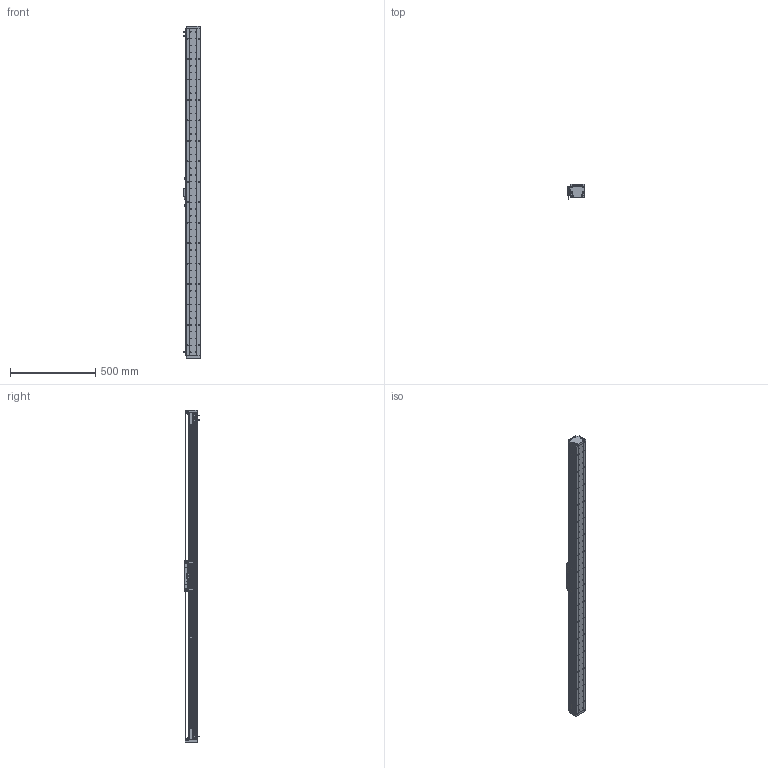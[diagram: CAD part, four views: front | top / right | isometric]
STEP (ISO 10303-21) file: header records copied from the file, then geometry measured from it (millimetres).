
FILE_DESCRIPTION (( 'STEP AP203' ), '1' );
FILE_NAME ('DA-A82-B2-T1700-C010-0.2 眻盄萇儂.STEP', '2025-08-13T03:11:57', ( '' ), ( '' ), 'SwSTEP 2.0', 'SolidWorks 2019', '' );
FILE_SCHEMA (( 'CONFIG_CONTROL_DESIGN' ));
Length unit declared in the file: millimetre
Products named in the file (23): 复件 复件 17517-0000-003-00 钢带拉块^DA-A82-B2-T-C010-0.2; DA-A60-GYP-DMT-00 光电感应片^DA-A82-B2-T-C010-0.2(默认); 复件 复件 DA82-XJ-00 缓冲橡胶^DA-A82-B2-T-C010-0.2; 葩璃 DMT-010 1米m 0.2M^DA-A82-B2-T-C010-0.2; 葩璃 PM-T45^DA-A82-B2-T-C010-0.2; 葩璃 XD-U-02  棠掑喜^DA-A82-B2-T-C010-0.2; IU-AU82-L-00 菁釱(L1920); DA-A82-B2-T1700-C010-0.2 眻盄萇儂; AU82-HT-M-00 賑雄怢啣; 葩璃 鞠褒情蹟譫 M3^DA-A82-B2-T-C010-0.2; 复件 DA95-GT-T-00 底座钢轨^IU-AU82-L 底座导轨; 复件 纯铜油杯 6x6mm^AU82-M 滚珠滑台; 复件 复件 17517-0000-004-00  钢带压块^DA-A82-B2-T-C010-0.2(默认); 葩璃 葩璃 17517-0000-002-00 傷啣^DA-A82-B2-T-C010-0.2; 复件 DA95-B2-GT-00 滑块钢轨^AU82-M-00 一体化滑动台板; 复件 复件 复件 DA82 钢带盖板^DA-A82-B2-T-C010-0.2(默认); 葩璃 DA82-B2-DP-00 結え^AU82-M 幗紩賑怢; AU82-M-00 珨极趙賑雄怢啣; IU-AU82-L 菁釱絳寢; ｸｴｼ BKM02-W040-C1-TP-DA-3.0 ﾖｱﾏﾟｵ扈巐ｯﾗﾓ^DA-A82-B2-T-C010-0.2; 葩璃 DA60-DMT-DTJ-00 黍杅芛盓殤^DA-A82-B2-T-C010-0.2; AU82-M 幗紩賑怢; 葩璃 BKM01-W040-TRL^DA-A82-B2-T-C010-0.2
Assembly tree (40 placements, depth 4):
  DA-A82-B2-T1700-C010-0.2 眻盄萇儂
    IU-AU82-L 菁釱絳寢
      IU-AU82-L-00 菁釱(L1920)
      复件 DA95-GT-T-00 底座钢轨^IU-AU82-L 底座导轨  x2
    AU82-M 幗紩賑怢
      AU82-M-00 珨极趙賑雄怢啣
        AU82-HT-M-00 賑雄怢啣
        复件 DA95-B2-GT-00 滑块钢轨^AU82-M-00 一体化滑动台板  x4
      葩璃 DA82-B2-DP-00 結え^AU82-M 幗紩賑怢  x2
      复件 纯铜油杯 6x6mm^AU82-M 滚珠滑台  x2
    葩璃 DA60-DMT-DTJ-00 黍杅芛盓殤^DA-A82-B2-T-C010-0.2
    葩璃 DMT-010 1米m 0.2M^DA-A82-B2-T-C010-0.2
    DA-A60-GYP-DMT-00 光电感应片^DA-A82-B2-T-C010-0.2(默认)  x2
    ｸｴｼ BKM02-W040-C1-TP-DA-3.0 ﾖｱﾏﾟｵ扈巐ｯﾗﾓ^DA-A82-B2-T-C010-0.2
    复件 复件 17517-0000-003-00 钢带拉块^DA-A82-B2-T-C010-0.2  x2
    复件 复件 DA82-XJ-00 缓冲橡胶^DA-A82-B2-T-C010-0.2  x2
    复件 复件 17517-0000-004-00  钢带压块^DA-A82-B2-T-C010-0.2(默认)  x2
    葩璃 葩璃 17517-0000-002-00 傷啣^DA-A82-B2-T-C010-0.2  x2
    复件 复件 复件 DA82 钢带盖板^DA-A82-B2-T-C010-0.2(默认)
    葩璃 BKM01-W040-TRL^DA-A82-B2-T-C010-0.2
    葩璃 PM-T45^DA-A82-B2-T-C010-0.2  x3
    葩璃 XD-U-02  棠掑喜^DA-A82-B2-T-C010-0.2
    葩璃 鞠褒情蹟譫 M3^DA-A82-B2-T-C010-0.2  x6
Bounding box: 98.94 x 87.2 x 1948 mm (x, y, z)
Volume: 5528146.7 mm3; surface area: 1680067.3 mm2
Topology: 44 solids, 68 shells, 2529 faces, 6764 edges, 4282 vertices
Faces by surface type: cylinder 1289, plane 950, cone 272, bspline 8, torus 8, sphere 2
Entity records: 71927 total; most frequent: CARTESIAN_POINT 16603, DIRECTION 11231, ORIENTED_EDGE 10632, EDGE_CURVE 5316, AXIS2_PLACEMENT_3D 4335, VERTEX_POINT 3466, EDGE_LOOP 2714, VECTOR 2561
